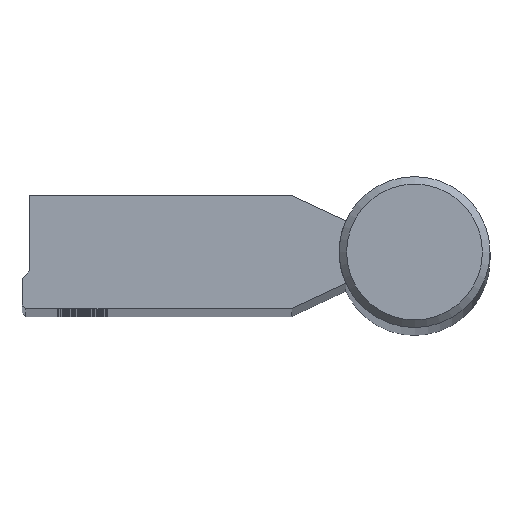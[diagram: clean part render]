
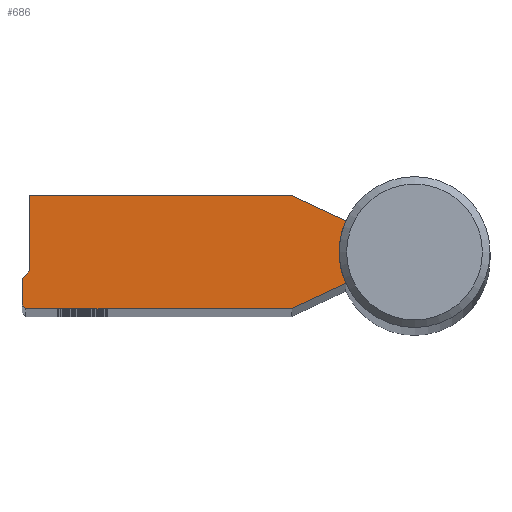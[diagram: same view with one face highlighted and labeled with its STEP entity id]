
A CAD part, top view. The second image highlights one B-rep face of the part: STEP entity #686.
In plain terms, the highlighted planar face has unit normal (0, 0, 1).
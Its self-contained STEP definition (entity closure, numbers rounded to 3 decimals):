
#686=ADVANCED_FACE('',(#1103),#1104,.T.);
#1103=FACE_OUTER_BOUND('',#1541,.T.);
#1104=PLANE('',#1542);
#1541=EDGE_LOOP('',(#2361,#2362,#2363,#2364,#2365,#2366,#2367,#2368,#2369));
#1542=AXIS2_PLACEMENT_3D('',#2370,#2371,#2372);
#2361=ORIENTED_EDGE('',*,*,#2562,.F.);
#2362=ORIENTED_EDGE('',*,*,#2665,.F.);
#2363=ORIENTED_EDGE('',*,*,#2666,.F.);
#2364=ORIENTED_EDGE('',*,*,#2667,.F.);
#2365=ORIENTED_EDGE('',*,*,#2668,.F.);
#2366=ORIENTED_EDGE('',*,*,#2608,.F.);
#2367=ORIENTED_EDGE('',*,*,#2605,.F.);
#2368=ORIENTED_EDGE('',*,*,#2602,.F.);
#2369=ORIENTED_EDGE('',*,*,#2563,.F.);
#2370=CARTESIAN_POINT('',(0.0,0.0,300.0));
#2371=DIRECTION('',(0.0,0.0,1.0));
#2372=DIRECTION('',(1.0,0.0,0.0));
#2562=EDGE_CURVE('',#2876,#2874,#2878,.T.);
#2563=EDGE_CURVE('',#2874,#2879,#2880,.T.);
#2602=EDGE_CURVE('',#2879,#2946,#2947,.T.);
#2605=EDGE_CURVE('',#2946,#2951,#2952,.T.);
#2608=EDGE_CURVE('',#2951,#2956,#2957,.T.);
#2665=EDGE_CURVE('',#3066,#2876,#3067,.T.);
#2666=EDGE_CURVE('',#3068,#3066,#3069,.T.);
#2667=EDGE_CURVE('',#3070,#3068,#3071,.T.);
#2668=EDGE_CURVE('',#2956,#3070,#3072,.T.);
#2874=VERTEX_POINT('',#4607);
#2876=VERTEX_POINT('',#4610);
#2878=LINE('',#4613,#4614);
#2879=VERTEX_POINT('',#4615);
#2880=LINE('',#4616,#4617);
#2946=VERTEX_POINT('',#4698);
#2947=LINE('',#4699,#4700);
#2951=VERTEX_POINT('',#4706);
#2952=LINE('',#4707,#4708);
#2956=VERTEX_POINT('',#4714);
#2957=CIRCLE('',#4715,10.0);
#3066=VERTEX_POINT('',#4825);
#3067=LINE('',#4826,#4827);
#3068=VERTEX_POINT('',#4828);
#3069=LINE('',#4829,#4830);
#3070=VERTEX_POINT('',#4831);
#3071=LINE('',#4832,#4833);
#3072=LINE('',#4834,#4835);
#4607=CARTESIAN_POINT('',(-51.0,-2.5,300.0));
#4610=CARTESIAN_POINT('',(-52.0,-3.5,300.0));
#4613=CARTESIAN_POINT('',(-52.0,-3.5,300.0));
#4614=VECTOR('',#5045,1.0);
#4615=CARTESIAN_POINT('',(-51.0,7.5,300.0));
#4616=CARTESIAN_POINT('',(-51.0,-2.5,300.0));
#4617=VECTOR('',#5046,1.0);
#4698=CARTESIAN_POINT('',(-16.282,7.5,300.0));
#4699=CARTESIAN_POINT('',(-51.0,7.5,300.0));
#4700=VECTOR('',#5131,1.0);
#4706=CARTESIAN_POINT('',(-9.098,4.15,300.0));
#4707=CARTESIAN_POINT('',(-16.282,7.5,300.0));
#4708=VECTOR('',#5134,1.0);
#4714=CARTESIAN_POINT('',(-9.098,-4.15,300.0));
#4715=AXIS2_PLACEMENT_3D('',#5137,#5138,#5139);
#4825=CARTESIAN_POINT('',(-52.0,-7.0,300.0));
#4826=CARTESIAN_POINT('',(-52.0,-7.0,300.0));
#4827=VECTOR('',#5306,1.0);
#4828=CARTESIAN_POINT('',(-51.5,-7.5,300.0));
#4829=CARTESIAN_POINT('',(-51.5,-7.5,300.0));
#4830=VECTOR('',#5307,1.0);
#4831=CARTESIAN_POINT('',(-16.282,-7.5,300.0));
#4832=CARTESIAN_POINT('',(-16.282,-7.5,300.0));
#4833=VECTOR('',#5308,1.0);
#4834=CARTESIAN_POINT('',(-9.098,-4.15,300.0));
#4835=VECTOR('',#5309,1.0);
#5045=DIRECTION('',(0.707,0.707,0.0));
#5046=DIRECTION('',(0.0,1.0,0.0));
#5131=DIRECTION('',(1.0,0.0,0.0));
#5134=DIRECTION('',(0.906,-0.423,0.0));
#5137=CARTESIAN_POINT('',(0.0,0.0,300.0));
#5138=DIRECTION('',(0.0,0.0,1.0));
#5139=DIRECTION('',(1.0,0.0,0.0));
#5306=DIRECTION('',(0.0,1.0,0.0));
#5307=DIRECTION('',(-0.707,0.707,0.0));
#5308=DIRECTION('',(-1.0,0.0,0.0));
#5309=DIRECTION('',(-0.906,-0.423,0.0));
